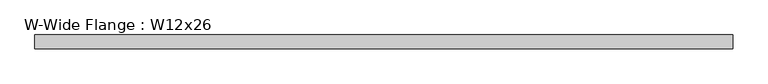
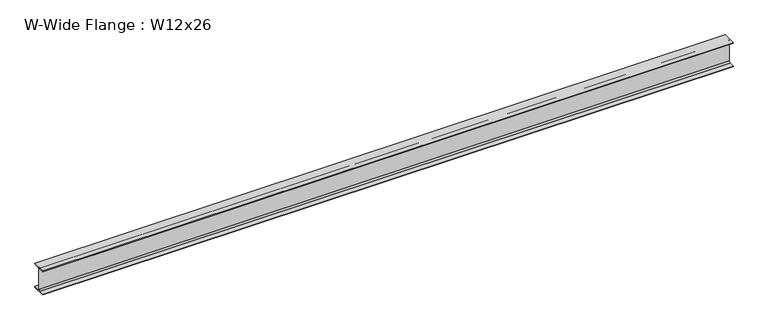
"""IFC4 building model written with IfcOpenShell, lengths in millimetres: beam geometry, W-Wide Flange : W12x26."""

from ifc_helpers import new_model, si_unit, point, frame, frame_2d, origin, place, context, project, spatial, polyline, circle_curve, trimmed, segment, composite_curve, outline, extrude, source, transform, mapped, element, save


def w_wide_flange_w12x26_34b74df3(model_context):
    return source(origin(), model_context, "Body", "SweptSolid", [
        extrude(outline(composite_curve([segment(polyline([(82.423, -145.288), (82.423, -154.94), (-82.423, -154.94), (-82.423, -145.288), (-20.2565, -145.288)]), True, "CONTINUOUS"), segment(trimmed(circle_curve(frame_2d((-20.2565, -127.9525)), 17.3355), [point((-20.2565, -145.288))], [point((-2.921, -127.9525))], True, "CARTESIAN"), True, "CONTINUOUS"), segment(polyline([(-2.921, -127.9525), (-2.921, 127.9525)]), True, "CONTINUOUS"), segment(trimmed(circle_curve(frame_2d((-20.2565, 127.9525)), 17.3355), [point((-2.921, 127.9525))], [point((-20.2565, 145.288))], True, "CARTESIAN"), True, "CONTINUOUS"), segment(polyline([(-20.2565, 145.288), (-82.423, 145.288), (-82.423, 154.94), (82.423, 154.94), (82.423, 145.288), (20.2565, 145.288)]), True, "CONTINUOUS"), segment(trimmed(circle_curve(frame_2d((20.2565, 127.9525)), 17.3355), [point((20.2565, 145.288))], [point((2.921, 127.9525))], True, "CARTESIAN"), True, "CONTINUOUS"), segment(polyline([(2.921, 127.9525), (2.921, -127.9525)]), True, "CONTINUOUS"), segment(trimmed(circle_curve(frame_2d((20.2565, -127.9525)), 17.3355), [point((2.921, -127.9525))], [point((20.2565, -145.288))], True, "CARTESIAN"), True, "CONTINUOUS"), segment(polyline([(20.2565, -145.288), (82.423, -145.288)]), True, "CONTINUOUS")], self_intersect=False)), frame((-4231.57762, 0.0, 0.0), z_axis=(1.0, 0.0, 0.0), x_axis=(0.0, 1.0, 0.0)), (0.0, 0.0, 1.0), 8403.463),
    ])


if __name__ == "__main__":
    model = new_model("IFC4")
    model_context = context("Model", 3, world=origin())
    ifc_project = project(units=[si_unit("LENGTHUNIT", "METRE", prefix="MILLI")], contexts=[model_context])
    site = spatial("IfcSite", under=ifc_project)
    building = spatial("IfcBuilding", under=site)
    placement = place(None, origin())
    w_wide_flange_w12x26_shape = w_wide_flange_w12x26_34b74df3(model_context)
    element("IfcBeam", 1, ObjectType="W-Wide Flange : W12x26", at=placement, inside=building, context=model_context, shape_type="MappedRepresentation", body=[
        mapped(w_wide_flange_w12x26_shape, transform((0.0, 0.0, 0.0), x_axis=(1.0, 0.0, 0.0), y_axis=(0.0, 1.0, 0.0), z_axis=(0.0, 0.0, 1.0))),
    ])
    save(model, "model.ifc")
